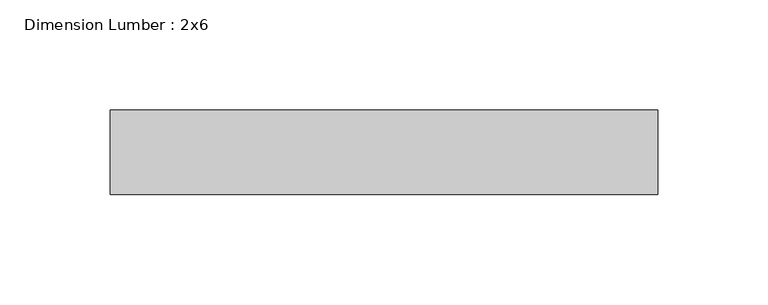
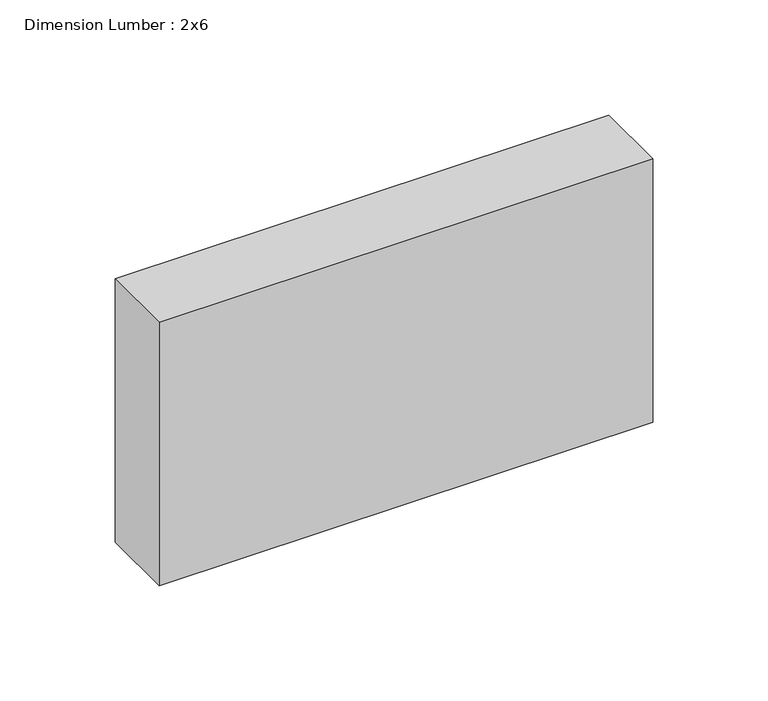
"""IFC4 building model written with IfcOpenShell, lengths in millimetres: beam geometry, Dimension Lumber : 2x6."""

from ifc_helpers import new_model, si_unit, frame, origin, place, context, project, spatial, polyline, outline, extrude, source, transform, mapped, element, save


def dimension_lumber_2x6_1c5a12aa(model_context):
    return source(origin(), model_context, "Body", "SweptSolid", [
        extrude(outline(polyline([(123.825, 19.05), (123.825, -19.05), (-123.825, -19.05), (-123.825, 19.05), (123.825, 19.05)])), frame((0.0, 0.0, -69.85), z_axis=(0.0, 0.0, 1.0), x_axis=(1.0, 0.0, 0.0)), (0.0, 0.0, 1.0), 139.7),
    ])


if __name__ == "__main__":
    model = new_model("IFC4")
    model_context = context("Model", 3, world=origin())
    ifc_project = project(units=[si_unit("LENGTHUNIT", "METRE", prefix="MILLI")], contexts=[model_context])
    site = spatial("IfcSite", under=ifc_project)
    building = spatial("IfcBuilding", under=site)
    placement = place(None, origin())
    dimension_lumber_2x6_shape = dimension_lumber_2x6_1c5a12aa(model_context)
    element("IfcBeam", 1, ObjectType="Dimension Lumber : 2x6", at=placement, inside=building, context=model_context, shape_type="MappedRepresentation", body=[
        mapped(dimension_lumber_2x6_shape, transform((0.0, 0.0, 0.0), x_axis=(1.0, 0.0, 0.0), y_axis=(0.0, 1.0, 0.0), z_axis=(0.0, 0.0, 1.0))),
    ])
    save(model, "model.ifc")
